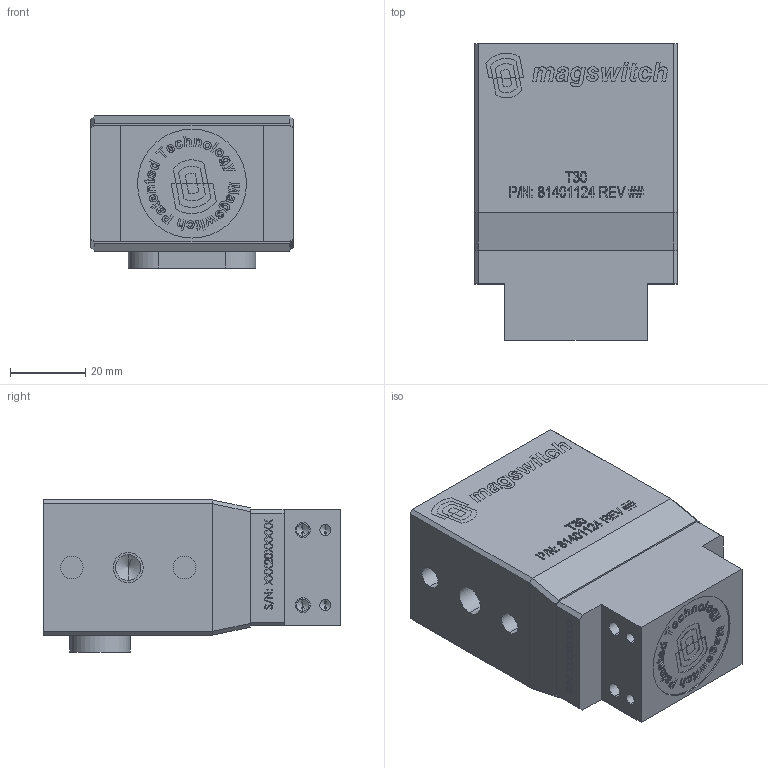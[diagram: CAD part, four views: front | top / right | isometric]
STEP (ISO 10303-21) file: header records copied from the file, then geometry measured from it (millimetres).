
FILE_DESCRIPTION (( 'STEP AP203' ), '1' );
FILE_NAME ('80001124_p.STEP', '2021-11-23T16:45:34', ( '' ), ( '' ), 'SwSTEP 2.0', 'SolidWorks 2018', '' );
FILE_SCHEMA (( 'CONFIG_CONTROL_DESIGN' ));
Length unit declared in the file: millimetre
Products named in the file (1): 80001124_p
Bounding box: 54 x 79 x 40.5 mm (x, y, z)
Volume: 84049.8 mm3; surface area: 43677 mm2
Topology: 9 solids, 9 shells, 1712 faces, 4539 edges, 2985 vertices
Faces by surface type: plane 935, bspline 446, cylinder 274, cone 42, torus 15
Entity records: 75470 total; most frequent: CARTESIAN_POINT 36070, ORIENTED_EDGE 9002, DIRECTION 6462, EDGE_CURVE 4501, LINE 3014, VECTOR 3014, VERTEX_POINT 2985, EDGE_LOOP 1910
